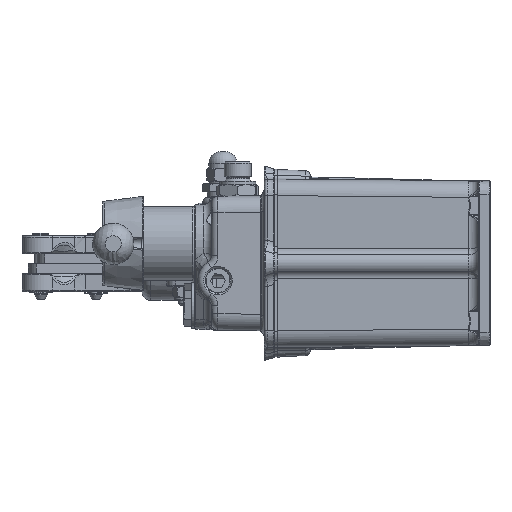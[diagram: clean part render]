
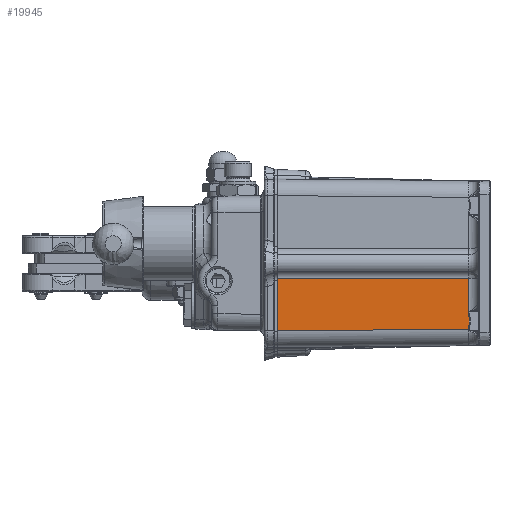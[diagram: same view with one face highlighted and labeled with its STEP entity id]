
A CAD part, left-side view. The second image highlights one B-rep face of the part: STEP entity #19945.
In plain terms, the highlighted planar face has unit normal (-1, 0.009, 0).
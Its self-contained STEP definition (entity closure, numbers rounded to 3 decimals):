
#549=B_SPLINE_CURVE_WITH_KNOTS('',3,(#38148,#38149,#38150,#38151,#38152,
#38153,#38154,#38155,#38156,#38157,#38158,#38159,#38160,#38161,#38162,#38163,
#38164),.UNSPECIFIED.,.F.,.F.,(4,1,1,1,1,1,1,1,1,1,1,1,1,1,4),(0.,
0.125,0.188,0.25,0.313,
0.375,0.438,0.5,0.563,
0.625,0.688,0.75,0.813,
0.875,1.),.UNSPECIFIED.);
#5187=ORIENTED_EDGE('',*,*,#9829,.T.);
#5188=ORIENTED_EDGE('',*,*,#9830,.T.);
#5189=ORIENTED_EDGE('',*,*,#9828,.T.);
#5190=ORIENTED_EDGE('',*,*,#9797,.T.);
#5191=ORIENTED_EDGE('',*,*,#9831,.T.);
#5192=ORIENTED_EDGE('',*,*,#9776,.T.);
#5193=ORIENTED_EDGE('',*,*,#9832,.F.);
#9776=EDGE_CURVE('',#12670,#12671,#14445,.T.);
#9797=EDGE_CURVE('',#12684,#12674,#14451,.T.);
#9828=EDGE_CURVE('',#12701,#12684,#549,.T.);
#9829=EDGE_CURVE('',#12702,#12703,#14462,.T.);
#9830=EDGE_CURVE('',#12703,#12701,#14463,.T.);
#9831=EDGE_CURVE('',#12674,#12670,#14464,.T.);
#9832=EDGE_CURVE('',#12702,#12671,#14465,.T.);
#12670=VERTEX_POINT('',#37535);
#12671=VERTEX_POINT('',#37536);
#12674=VERTEX_POINT('',#37627);
#12684=VERTEX_POINT('',#37757);
#12701=VERTEX_POINT('',#38147);
#12702=VERTEX_POINT('',#38167);
#12703=VERTEX_POINT('',#38168);
#14445=LINE('',#37534,#15633);
#14451=LINE('',#37756,#15639);
#14462=LINE('',#38166,#15650);
#14463=LINE('',#38169,#15651);
#14464=LINE('',#38170,#15652);
#14465=LINE('',#38171,#15653);
#15633=VECTOR('',#25416,1000.);
#15639=VECTOR('',#25448,1000.);
#15650=VECTOR('',#25491,1000.);
#15651=VECTOR('',#25492,1000.);
#15652=VECTOR('',#25493,1000.);
#15653=VECTOR('',#25494,1000.);
#17004=EDGE_LOOP('',(#5187,#5188,#5189,#5190,#5191,#5192,#5193));
#18378=FACE_BOUND('',#17004,.T.);
#19277=PLANE('',#21910);
#19945=ADVANCED_FACE('',(#18378),#19277,.F.);
#21910=AXIS2_PLACEMENT_3D('',#38165,#25489,#25490);
#25416=DIRECTION('',(0.009,1.,0.));
#25448=DIRECTION('',(0.,0.,1.));
#25489=DIRECTION('',(1.,-0.009,0.));
#25490=DIRECTION('',(0.009,1.,0.));
#25491=DIRECTION('',(-0.009,-1.,0.009));
#25492=DIRECTION('',(0.,0.,1.));
#25493=DIRECTION('',(0.009,1.,0.));
#25494=DIRECTION('',(0.,0.,1.));
#37534=CARTESIAN_POINT('',(-143.58,-122.97,21.782));
#37535=CARTESIAN_POINT('',(-144.593,-239.018,21.782));
#37536=CARTESIAN_POINT('',(-143.58,-122.97,21.782));
#37627=CARTESIAN_POINT('',(-144.593,-239.022,21.782));
#37756=CARTESIAN_POINT('',(-144.593,-239.022,30.909));
#37757=CARTESIAN_POINT('',(-144.593,-239.022,0.528));
#38147=CARTESIAN_POINT('',(-144.593,-239.022,-8.711));
#38148=CARTESIAN_POINT('',(-144.593,-239.022,-8.711));
#38149=CARTESIAN_POINT('',(-144.593,-239.022,-8.429));
#38150=CARTESIAN_POINT('',(-144.593,-239.046,-7.93));
#38151=CARTESIAN_POINT('',(-144.594,-239.123,-7.114));
#38152=CARTESIAN_POINT('',(-144.595,-239.209,-6.418));
#38153=CARTESIAN_POINT('',(-144.596,-239.302,-5.673));
#38154=CARTESIAN_POINT('',(-144.596,-239.362,-5.061));
#38155=CARTESIAN_POINT('',(-144.596,-239.399,-4.525));
#38156=CARTESIAN_POINT('',(-144.597,-239.412,-4.111));
#38157=CARTESIAN_POINT('',(-144.596,-239.401,-3.686));
#38158=CARTESIAN_POINT('',(-144.596,-239.364,-3.146));
#38159=CARTESIAN_POINT('',(-144.596,-239.304,-2.529));
#38160=CARTESIAN_POINT('',(-144.595,-239.212,-1.787));
#38161=CARTESIAN_POINT('',(-144.594,-239.124,-1.079));
#38162=CARTESIAN_POINT('',(-144.593,-239.046,-0.256));
#38163=CARTESIAN_POINT('',(-144.593,-239.022,0.246));
#38164=CARTESIAN_POINT('',(-144.593,-239.022,0.528));
#38165=CARTESIAN_POINT('',(-143.572,-122.062,30.909));
#38166=CARTESIAN_POINT('',(-143.564,-121.067,-10.107));
#38167=CARTESIAN_POINT('',(-143.58,-122.97,-10.09));
#38168=CARTESIAN_POINT('',(-144.593,-239.022,-9.077));
#38169=CARTESIAN_POINT('',(-144.593,-239.022,30.909));
#38170=CARTESIAN_POINT('',(-143.58,-122.97,21.782));
#38171=CARTESIAN_POINT('',(-143.58,-122.97,-20.091));
